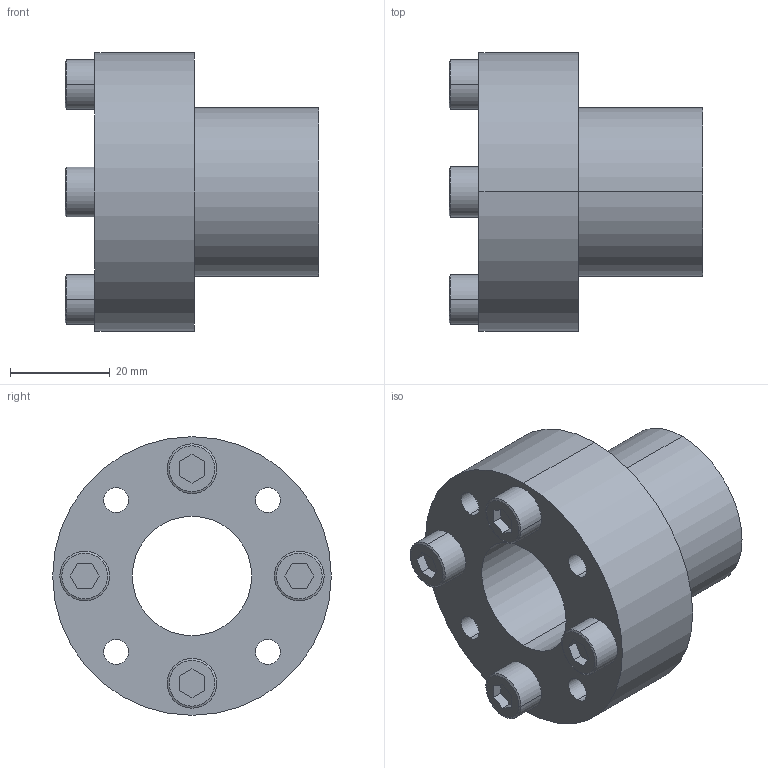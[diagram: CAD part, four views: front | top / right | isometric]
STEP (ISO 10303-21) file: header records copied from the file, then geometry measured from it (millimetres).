
FILE_DESCRIPTION (( 'STEP AP203' ), '1' );
FILE_NAME ('SB-24.STEP', '2009-09-29T15:50:35', ( 'USER' ), ( 'HOME' ), 'SwSTEP 2.0', 'SolidWorks 2007', '' );
FILE_SCHEMA (( 'CONFIG_CONTROL_DESIGN' ));
Length unit declared in the file: millimetre
Products named in the file (1): SB-24
Bounding box: 51 x 56 x 56 mm (x, y, z)
Volume: 52088.6 mm3; surface area: 18585.4 mm2
Topology: 5 solids, 5 shells, 89 faces, 202 edges, 132 vertices
Faces by surface type: plane 43, cylinder 38, cone 8
Entity records: 2621 total; most frequent: DIRECTION 466, CARTESIAN_POINT 424, ORIENTED_EDGE 404, EDGE_CURVE 202, AXIS2_PLACEMENT_3D 174, VERTEX_POINT 132, VECTOR 118, LINE 118
